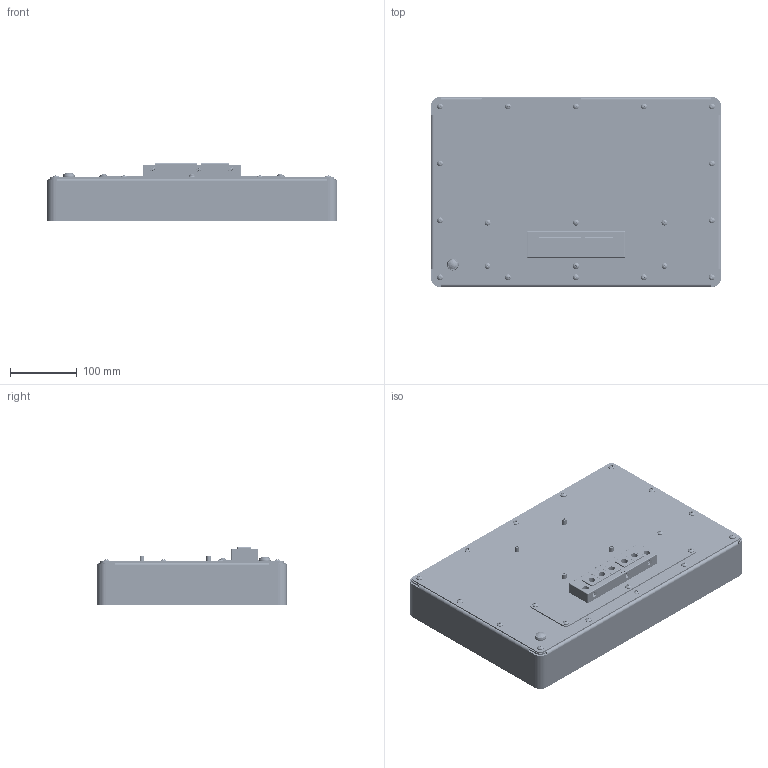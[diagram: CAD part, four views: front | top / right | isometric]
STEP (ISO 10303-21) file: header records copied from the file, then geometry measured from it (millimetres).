
FILE_DESCRIPTION (( 'STEP AP203' ), '1' );
FILE_NAME ('K156 Assembly.STEP', '2026-03-05T12:51:59', ( '' ), ( '' ), 'SwSTEP 2.0', 'SolidWorks 2025', '' );
FILE_SCHEMA (( 'CONFIG_CONTROL_DESIGN' ));
Length unit declared in the file: millimetre
Products named in the file (64): 48250_10; K156-10 Front; ITW 59111_locknut; SLIM_D-SUB_15F_1_50MM_DIP_90_^PCB-SBC-250_sbc-250(2)_sbc-250 board only; SSD2.5-10 bracket; Samsung 2,5'''' 870EVO; PCB-SBC-250^sbc-250(2)_sbc-250 board only; 48250_04; 48250_11; MSBR-3^SLIM_D-SUB_15F_1_50MM_DIP_90__PCB-SBC-250_sbc-250(2)_sbc-250 board only; IPPC00-25 Backpanel SBC250; 48250_02; 48250_13; RS232_panelmount_RS 446-462; IPPC00-11 Montageplaat voeding; BSO4-M4-10 RVS gesloten inpersafstandsteun; K156-15 Displaystrip; AK_USB_13P_4HD_RA_FOXC^PCB-SBC-250_sbc-250(2)_sbc-250 board only; IPPC00-27 Backpanel SBC260; IPPC00-10 Connector cover; S-M3-1-ZI Inpersmoer; G156HCE-L01; 48250_01; DIN 967 - M4 x 12 - Z --- 10.6N_DIN 967 - M4 x 12 - Z --- 10.6N; K156-13 backcover; PCB-SBC-250-5^PCB-SBC-250_sbc-250(2)_sbc-250 board only; ITW 59111_ring; AK_D_SUB_15P_4HD_RA_LFA^PCB-SBC-250_sbc-250(2)_sbc-250 board only; SBC250-10 Heatspreader Asrock SBC250; SBC250 met heatspreader; 48250_07; Sealing^K156-00 Assembly; sbc-250(2)^sbc-250 board only; S-M5-2-ZI Inpersmoer; K156-12 Panelframe; Meanwell IRM-60-12ST; K156 Assembly; K-UNI-01 Componenten assembly_SBC250; 48250_09; Tubtara M4 HUKX20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
Assembly tree (116 placements, depth 8):
  K156 Assembly
    K156-10 Front
      K156-10 Front
      Tubtara M4 HUKX30  x14
    K156-11 Glassmount
    K156-12 Panelframe
    K156-13 backcover
      K156-13 backcover
      BSO4-M4-10 RVS gesloten inpersafstandsteun  x4
      Tubtara M4 HUKX20  x6
    K-UNI-01 Componenten assembly_SBC250
      IPPC00-10 Connector cover
        IPPC00-10 Connector cover
        S-M5-2-ZI Inpersmoer  x2
      48250
        48250_01
        48250_02
        48250_03
        48250_04
        48250_05
        48250_06
        48250_07
        48250_08
        48250_09
        48250_10
        48250_11
        48250_12
        48250_13
      Meanwell IRM-60-12ST
      IPPC00-11 Montageplaat voeding
        IPPC00-11 Montageplaat voeding
        S-M3-1-ZI Inpersmoer  x8
      220V IEC snap-in input socket 539-2017
      IPPC00-25 Backpanel SBC250
      SSD2.5-10 bracket
      Samsung 2,5'''' 870EVO
      SBC250 met heatspreader
        sbc-250 board only
          sbc-250(2)^sbc-250 board only
            PCB-SBC-250^sbc-250(2)_sbc-250 board only
              SLIM_D-SUB_15F_1_50MM_DIP_90_^PCB-SBC-250_sbc-250(2)_sbc-250 board only
                MSBR-3^SLIM_D-SUB_15F_1_50MM_DIP_90__PCB-SBC-250_sbc-250(2)_sbc-250 board only
                MSBR-2^SLIM_D-SUB_15F_1_50MM_DIP_90__PCB-SBC-250_sbc-250(2)_sbc-250 board only
                MSBR-1^SLIM_D-SUB_15F_1_50MM_DIP_90__PCB-SBC-250_sbc-250(2)_sbc-250 board only
              PCB-SBC-250-5^PCB-SBC-250_sbc-250(2)_sbc-250 board only
              AK_D_SUB_15P_4HD_RA_LFA^PCB-SBC-250_sbc-250(2)_sbc-250 board only
              AK_USB_13P_4HD_RA_FOXC^PCB-SBC-250_sbc-250(2)_sbc-250 board only
              AK_HDMI_19P_30_7HD_RA_LFA^PCB-SBC-250_sbc-250(2)_sbc-250 board only
              AK_LAN_JACK_24P_4H_S_KI_LFA^PCB-SBC-250_sbc-250(2)_sbc-250 board only
        SBC250-10 Heatspreader Asrock SBC250
      RS232_panelmount_RS 446-462  x2
      Vertical stacked USB panelmount_Défaut
      IPPC00-27 Backpanel SBC260
      SBC260 met heatspreader
        sbc-260_board only
        SBC250-10 Heatspreader Asrock SBC250
    Meanwell IRM-60-12ST
    IPPC00-11 Montageplaat voeding
      IPPC00-11 Montageplaat voeding
      S-M3-1-ZI Inpersmoer  x8
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Bounding box: 435 x 284 x 86 mm (x, y, z)
Volume: 2580028.8 mm3; surface area: 1715439.6 mm2
Topology: 133 solids, 191 shells, 21463 faces, 58334 edges, 37135 vertices
Faces by surface type: plane 15529, cylinder 4101, bspline 959, cone 506, torus 238, sphere 130
Full cylindrical faces by diameter (mm): 0.92 x18, 1.397 x2, 1.8 x3, 2.5 x28, 3 x12, 3.2 x8, 3.4 x40, 3.5 x18, 4 x34, 4.008 x12, 4.04 x13, 4.2 x21, 4.3 x16, 4.41 x4, 4.5 x6, 5 x23, 5.2 x12, 5.5 x21, 5.8 x2, 6 x30, 6.1 x2, 6.2 x8, 6.3 x16, 6.4 x2, 6.48 x2, 6.5 x4, 7.1 x4, 7.22 x4, 8.5 x3, 8.7 x2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
Entity records: 707052 total; most frequent: CARTESIAN_POINT 196988, ORIENTED_EDGE 109058, DIRECTION 96226, EDGE_CURVE 54531, VECTOR 42584, LINE 42584, VERTEX_POINT 34905, AXIS2_PLACEMENT_3D 26821
